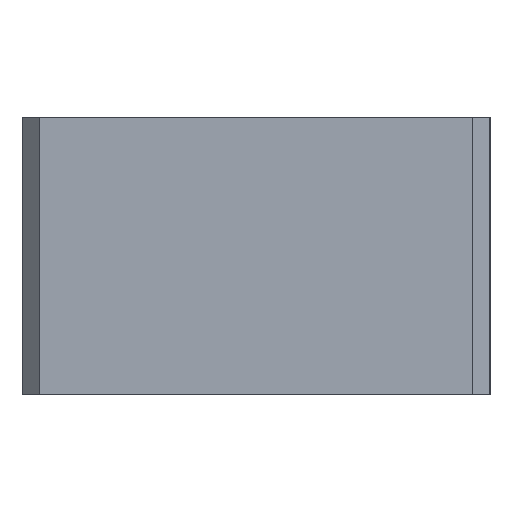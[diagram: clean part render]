
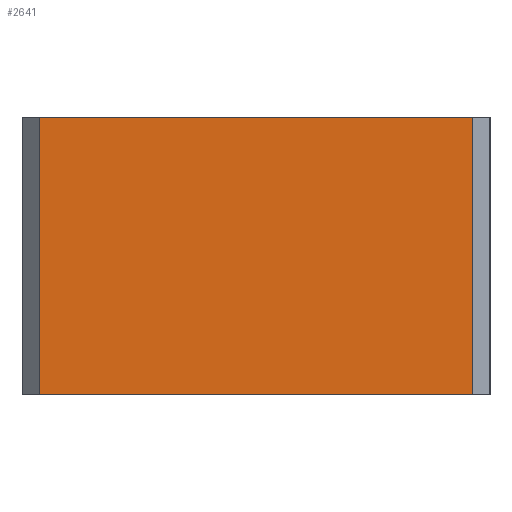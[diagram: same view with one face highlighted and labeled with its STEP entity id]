
A CAD part, left-side view. The second image highlights one B-rep face of the part: STEP entity #2641.
In plain terms, the highlighted planar face has unit normal (-1, 0, 0).
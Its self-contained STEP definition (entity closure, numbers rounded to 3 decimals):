
#420=DIRECTION('',(0.,-1.,0.));
#421=VECTOR('',#420,25.);
#422=CARTESIAN_POINT('',(-19.5,12.5,8.));
#423=LINE('',#422,#421);
#518=DIRECTION('',(0.,-1.,0.));
#519=VECTOR('',#518,25.);
#520=CARTESIAN_POINT('',(-19.5,12.5,-8.));
#521=LINE('',#520,#519);
#842=DIRECTION('',(0.,0.,-1.));
#843=VECTOR('',#842,16.);
#844=CARTESIAN_POINT('',(-19.5,12.5,8.));
#845=LINE('',#844,#843);
#846=DIRECTION('',(0.,0.,1.));
#847=VECTOR('',#846,16.);
#848=CARTESIAN_POINT('',(-19.5,-12.5,-8.));
#849=LINE('',#848,#847);
#1538=CARTESIAN_POINT('',(-19.5,12.5,-8.));
#1540=VERTEX_POINT('',#1538);
#1544=CARTESIAN_POINT('',(-19.5,12.5,8.));
#1545=VERTEX_POINT('',#1544);
#1546=CARTESIAN_POINT('',(-19.5,-12.5,8.));
#1548=VERTEX_POINT('',#1546);
#1552=CARTESIAN_POINT('',(-19.5,-12.5,-8.));
#1553=VERTEX_POINT('',#1552);
#2629=CARTESIAN_POINT('',(-19.5,13.5,-1.75));
#2630=DIRECTION('',(-1.,0.,0.));
#2631=DIRECTION('',(0.,-1.,0.));
#2632=AXIS2_PLACEMENT_3D('',#2629,#2630,#2631);
#2633=PLANE('',#2632);
#2635=ORIENTED_EDGE('',*,*,#2634,.F.);
#2636=ORIENTED_EDGE('',*,*,#2060,.T.);
#2637=ORIENTED_EDGE('',*,*,#2624,.F.);
#2638=ORIENTED_EDGE('',*,*,#2146,.F.);
#2639=EDGE_LOOP('',(#2635,#2636,#2637,#2638));
#2640=FACE_OUTER_BOUND('',#2639,.F.);
#2641=ADVANCED_FACE('',(#2640),#2633,.T.);
#2060=EDGE_CURVE('',#1545,#1548,#423,.T.);
#2146=EDGE_CURVE('',#1540,#1553,#521,.T.);
#2624=EDGE_CURVE('',#1553,#1548,#849,.T.);
#2634=EDGE_CURVE('',#1545,#1540,#845,.T.);
